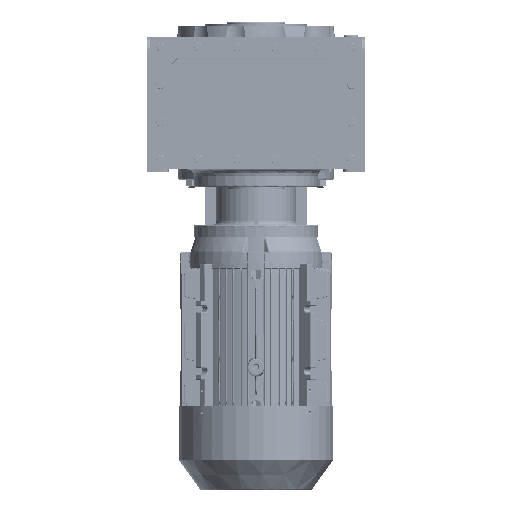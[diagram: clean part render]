
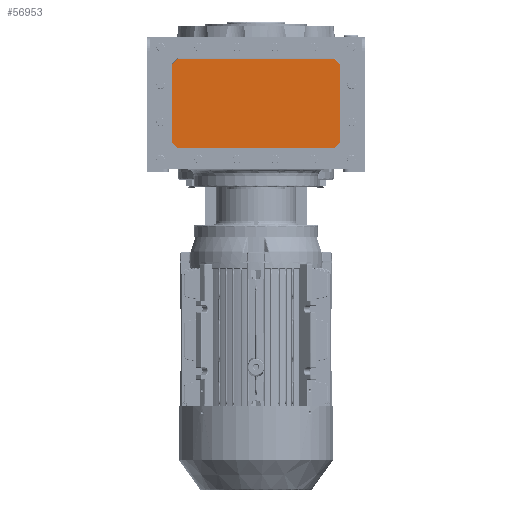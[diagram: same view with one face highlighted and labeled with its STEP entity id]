
A CAD part, front view. The second image highlights one B-rep face of the part: STEP entity #56953.
In plain terms, the highlighted planar face has unit normal (0, -1, 0).
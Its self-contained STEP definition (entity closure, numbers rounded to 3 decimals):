
#2122 = EDGE_CURVE ( 'NONE', #49375, #49298, #125834, .T. ) ;
#2134 = EDGE_CURVE ( 'NONE', #49394, #49396, #125838, .T. ) ;
#2162 = EDGE_CURVE ( 'NONE', #49396, #49415, #126113, .T. ) ;
#2180 = EDGE_CURVE ( 'NONE', #49506, #49472, #126146, .T. ) ;
#2182 = EDGE_CURVE ( 'NONE', #49337, #49506, #125906, .T. ) ;
#2196 = EDGE_CURVE ( 'NONE', #49415, #49337, #125898, .T. ) ;
#2212 = EDGE_CURVE ( 'NONE', #49298, #49394, #125916, .T. ) ;
#2228 = EDGE_CURVE ( 'NONE', #49472, #49375, #125974, .T. ) ;
#6591 = EDGE_LOOP ( 'NONE', ( #176738, #176581, #176747, #176695, #176764, #176815, #176700, #176610 ) ) ;
#49298 = VERTEX_POINT ( 'NONE', #80742 ) ;
#49337 = VERTEX_POINT ( 'NONE', #80826 ) ;
#49375 = VERTEX_POINT ( 'NONE', #80928 ) ;
#49394 = VERTEX_POINT ( 'NONE', #81001 ) ;
#49396 = VERTEX_POINT ( 'NONE', #80984 ) ;
#49415 = VERTEX_POINT ( 'NONE', #80999 ) ;
#49472 = VERTEX_POINT ( 'NONE', #81068 ) ;
#49506 = VERTEX_POINT ( 'NONE', #81170 ) ;
#56953 = ADVANCED_FACE ( 'NONE', ( #141303 ), #185689, .T. ) ;
#80742 = CARTESIAN_POINT ( 'NONE',  ( 100.278, -115., -41.536 ) ) ;
#80826 = CARTESIAN_POINT ( 'NONE',  ( -100.278, -115., -156.464 ) ) ;
#80928 = CARTESIAN_POINT ( 'NONE',  ( -100.278, -115., -41.536 ) ) ;
#80984 = CARTESIAN_POINT ( 'NONE',  ( 107.964, -115., -148.778 ) ) ;
#80999 = CARTESIAN_POINT ( 'NONE',  ( 100.278, -115., -156.464 ) ) ;
#81001 = CARTESIAN_POINT ( 'NONE',  ( 107.964, -115., -49.222 ) ) ;
#81068 = CARTESIAN_POINT ( 'NONE',  ( -107.964, -115., -49.222 ) ) ;
#81170 = CARTESIAN_POINT ( 'NONE',  ( -107.964, -115., -148.778 ) ) ;
#113886 = CARTESIAN_POINT ( 'NONE',  ( 100.121, -115., -156.621 ) ) ;
#113938 = DIRECTION ( 'NONE',  ( -0.707, 0., -0.707 ) ) ;
#114012 = CARTESIAN_POINT ( 'NONE',  ( -100.121, -115., -156.621 ) ) ;
#114052 = CARTESIAN_POINT ( 'NONE',  ( 100.5, -115., -156.464 ) ) ;
#114087 = DIRECTION ( 'NONE',  ( 0., 0., 1. ) ) ;
#114096 = DIRECTION ( 'NONE',  ( -0.707, 0., 0.707 ) ) ;
#114107 = CARTESIAN_POINT ( 'NONE',  ( -107.964, -115., -149. ) ) ;
#114169 = DIRECTION ( 'NONE',  ( 0.707, 0., -0.707 ) ) ;
#114206 = DIRECTION ( 'NONE',  ( -1., 0., 0. ) ) ;
#114223 = CARTESIAN_POINT ( 'NONE',  ( 108.121, -115., -49.379 ) ) ;
#116176 = DIRECTION ( 'NONE',  ( 0., 0., -1. ) ) ;
#116211 = DIRECTION ( 'NONE',  ( 1., 0., 0. ) ) ;
#116225 = CARTESIAN_POINT ( 'NONE',  ( 107.964, -115., -149. ) ) ;
#116241 = CARTESIAN_POINT ( 'NONE',  ( 100.5, -115., -41.536 ) ) ;
#125607 = VECTOR ( 'NONE', #116211, 1000. ) ;
#125611 = VECTOR ( 'NONE', #116176, 1000. ) ;
#125834 = LINE ( 'NONE', #116241, #125607 ) ;
#125838 = LINE ( 'NONE', #116225, #125611 ) ;
#125898 = LINE ( 'NONE', #114052, #126044 ) ;
#125906 = LINE ( 'NONE', #114012, #126030 ) ;
#125916 = LINE ( 'NONE', #114223, #126138 ) ;
#125974 = LINE ( 'NONE', #132946, #126076 ) ;
#126030 = VECTOR ( 'NONE', #114096, 1000. ) ;
#126034 = VECTOR ( 'NONE', #113938, 1000. ) ;
#126044 = VECTOR ( 'NONE', #114206, 1000. ) ;
#126076 = VECTOR ( 'NONE', #132915, 1000. ) ;
#126094 = VECTOR ( 'NONE', #114087, 1000. ) ;
#126113 = LINE ( 'NONE', #113886, #126034 ) ;
#126138 = VECTOR ( 'NONE', #114169, 1000. ) ;
#126146 = LINE ( 'NONE', #114107, #126094 ) ;
#132915 = DIRECTION ( 'NONE',  ( 0.707, 0., 0.707 ) ) ;
#132946 = CARTESIAN_POINT ( 'NONE',  ( -108.121, -115., -49.379 ) ) ;
#141303 = FACE_OUTER_BOUND ( 'NONE', #6591, .T. ) ;
#157613 = AXIS2_PLACEMENT_3D ( 'NONE', #185600, #185742, #185596 ) ;
#176581 = ORIENTED_EDGE ( 'NONE', *, *, #2180, .F. ) ;
#176610 = ORIENTED_EDGE ( 'NONE', *, *, #2122, .F. ) ;
#176695 = ORIENTED_EDGE ( 'NONE', *, *, #2196, .F. ) ;
#176700 = ORIENTED_EDGE ( 'NONE', *, *, #2212, .F. ) ;
#176738 = ORIENTED_EDGE ( 'NONE', *, *, #2228, .F. ) ;
#176747 = ORIENTED_EDGE ( 'NONE', *, *, #2182, .F. ) ;
#176764 = ORIENTED_EDGE ( 'NONE', *, *, #2162, .F. ) ;
#176815 = ORIENTED_EDGE ( 'NONE', *, *, #2134, .F. ) ;
#185596 = DIRECTION ( 'NONE',  ( 1., 0., 0. ) ) ;
#185600 = CARTESIAN_POINT ( 'NONE',  ( -40., -115., -129. ) ) ;
#185689 = PLANE ( 'NONE',  #157613 ) ;
#185742 = DIRECTION ( 'NONE',  ( 0., -1., 0. ) ) ;
